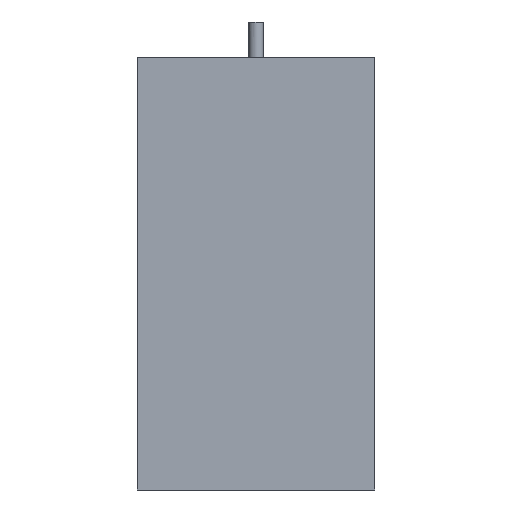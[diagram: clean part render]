
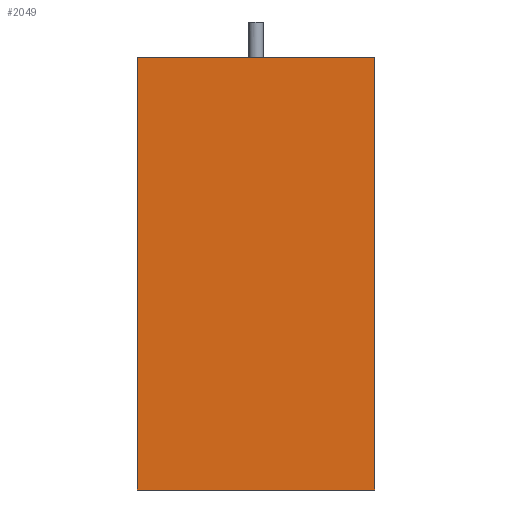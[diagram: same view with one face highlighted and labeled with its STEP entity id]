
A CAD part, front view. The second image highlights one B-rep face of the part: STEP entity #2049.
In plain terms, the highlighted planar face has unit normal (0, -1, 0).
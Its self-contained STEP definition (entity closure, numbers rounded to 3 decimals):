
#776=DIRECTION('',(0.,0.,1.));
#777=VECTOR('',#776,210.);
#778=CARTESIAN_POINT('',(57.5,-12.,-145.));
#779=LINE('',#778,#777);
#780=DIRECTION('',(1.,0.,0.));
#781=VECTOR('',#780,115.);
#782=CARTESIAN_POINT('',(-57.5,-12.,-145.));
#783=LINE('',#782,#781);
#784=DIRECTION('',(0.,0.,-1.));
#785=VECTOR('',#784,210.);
#786=CARTESIAN_POINT('',(-57.5,-12.,65.));
#787=LINE('',#786,#785);
#788=DIRECTION('',(-1.,0.,0.));
#789=VECTOR('',#788,115.);
#790=CARTESIAN_POINT('',(57.5,-12.,65.));
#791=LINE('',#790,#789);
#1641=CARTESIAN_POINT('',(57.5,-12.,-145.));
#1642=CARTESIAN_POINT('',(57.5,-12.,65.));
#1643=VERTEX_POINT('',#1641);
#1644=VERTEX_POINT('',#1642);
#1645=CARTESIAN_POINT('',(-57.5,-12.,65.));
#1646=CARTESIAN_POINT('',(-57.5,-12.,-145.));
#1647=VERTEX_POINT('',#1645);
#1648=VERTEX_POINT('',#1646);
#2038=CARTESIAN_POINT('',(0.,-12.,-40.));
#2039=DIRECTION('',(0.,-1.,0.));
#2040=DIRECTION('',(-1.,0.,0.));
#2041=AXIS2_PLACEMENT_3D('',#2038,#2039,#2040);
#2042=PLANE('',#2041);
#2043=ORIENTED_EDGE('',*,*,#1990,.F.);
#2044=ORIENTED_EDGE('',*,*,#2005,.F.);
#2045=ORIENTED_EDGE('',*,*,#2019,.F.);
#2046=ORIENTED_EDGE('',*,*,#2032,.F.);
#2047=EDGE_LOOP('',(#2043,#2044,#2045,#2046));
#2048=FACE_OUTER_BOUND('',#2047,.F.);
#2049=ADVANCED_FACE('',(#2048),#2042,.T.);
#1990=EDGE_CURVE('',#1643,#1644,#779,.T.);
#2005=EDGE_CURVE('',#1648,#1643,#783,.T.);
#2019=EDGE_CURVE('',#1647,#1648,#787,.T.);
#2032=EDGE_CURVE('',#1644,#1647,#791,.T.);
